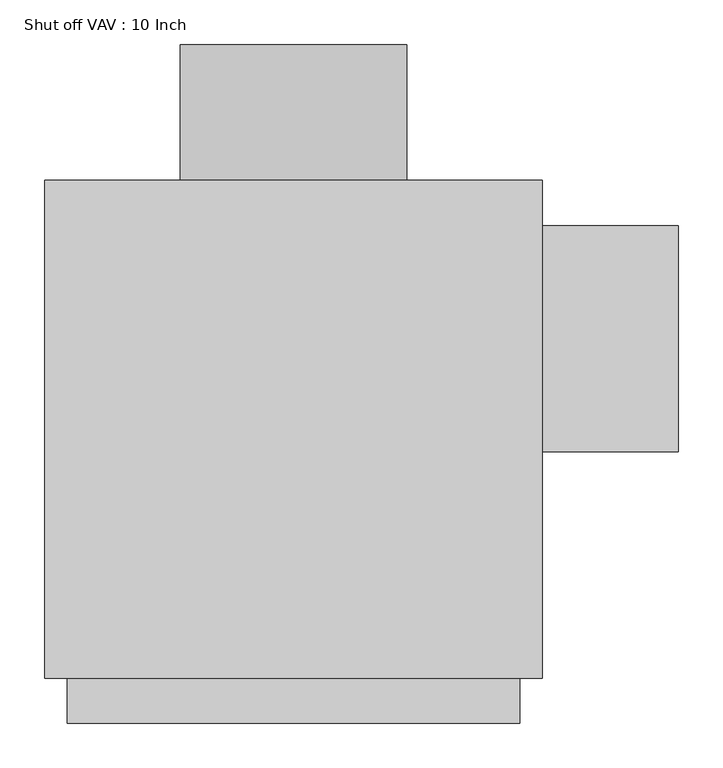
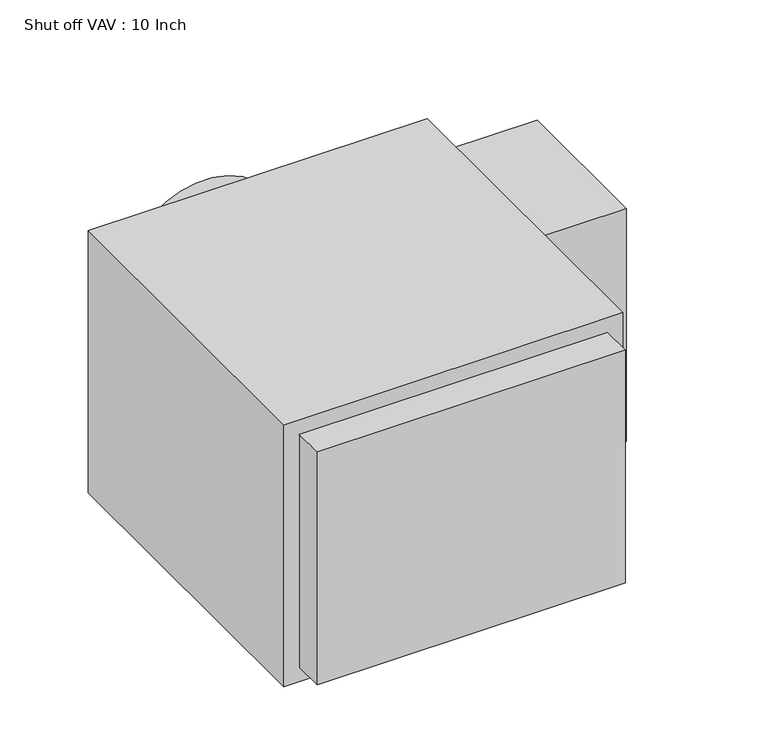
"""IFC4 building model written with IfcOpenShell, lengths in millimetres: proxy geometry, Shut off VAV : 10 Inch."""

from ifc_helpers import new_model, si_unit, point, frame, origin, origin_2d, place, context, project, spatial, polyline, circle_curve, trimmed, segment, composite_curve, outline, extrude, source, transform, mapped, element, save


def shut_off_vav_10_inch_df6e8142(model_context):
    return source(origin(), model_context, "Body", "SweptSolid", [
        extrude(outline(polyline([(431.8, 228.6), (431.8, -25.4), (279.4, -25.4), (279.4, 228.6), (431.8, 228.6)])), frame((0.0, 0.0, -203.2), z_axis=(0.0, 0.0, 1.0), x_axis=(1.0, 0.0, 0.0)), (0.0, 0.0, 1.0), 406.4),
        extrude(outline(composite_curve([segment(trimmed(circle_curve(origin_2d(), 127.0), [point((0.0, -127.0))], [point((0.0, 127.0))], False, "CARTESIAN"), True, "CONTINUOUS"), segment(trimmed(circle_curve(origin_2d(), 127.0), [point((0.0, 127.0))], [point((0.0, -127.0))], False, "CARTESIAN"), True, "CONTINUOUS")], self_intersect=False)), frame((0.0, 279.4, 0.0), z_axis=(0.0, 1.0, 0.0), x_axis=(0.0, 0.0, 1.0)), (0.0, 0.0, 1.0), 152.4),
        extrude(outline(polyline([(254.0, -330.2), (-254.0, -330.2), (-254.0, -279.4), (254.0, -279.4), (254.0, -330.2)])), frame((0.0, 0.0, -203.2), z_axis=(0.0, 0.0, 1.0), x_axis=(1.0, 0.0, 0.0)), (0.0, 0.0, 1.0), 406.4),
        extrude(outline(polyline([(279.4, -279.4), (-279.4, -279.4), (-279.4, 279.4), (279.4, 279.4), (279.4, -279.4)])), frame((0.0, 0.0, -228.6), z_axis=(0.0, 0.0, 1.0), x_axis=(1.0, 0.0, 0.0)), (0.0, 0.0, 1.0), 457.2),
    ])


if __name__ == "__main__":
    model = new_model("IFC4")
    model_context = context("Model", 3, world=origin())
    ifc_project = project(units=[si_unit("LENGTHUNIT", "METRE", prefix="MILLI")], contexts=[model_context])
    site = spatial("IfcSite", under=ifc_project)
    building = spatial("IfcBuilding", under=site)
    placement = place(None, origin())
    shut_off_vav_10_inch_shape = shut_off_vav_10_inch_df6e8142(model_context)
    element("IfcBuildingElementProxy", 1, Name="Shut off VAV : 10 Inch", ObjectType="Shut off VAV : 10 Inch", at=placement, inside=building, context=model_context, shape_type="MappedRepresentation", body=[
        mapped(shut_off_vav_10_inch_shape, transform((0.0, 0.0, 0.0), x_axis=(1.0, 0.0, 0.0), y_axis=(0.0, 1.0, 0.0), z_axis=(0.0, 0.0, 1.0))),
    ])
    save(model, "model.ifc")
